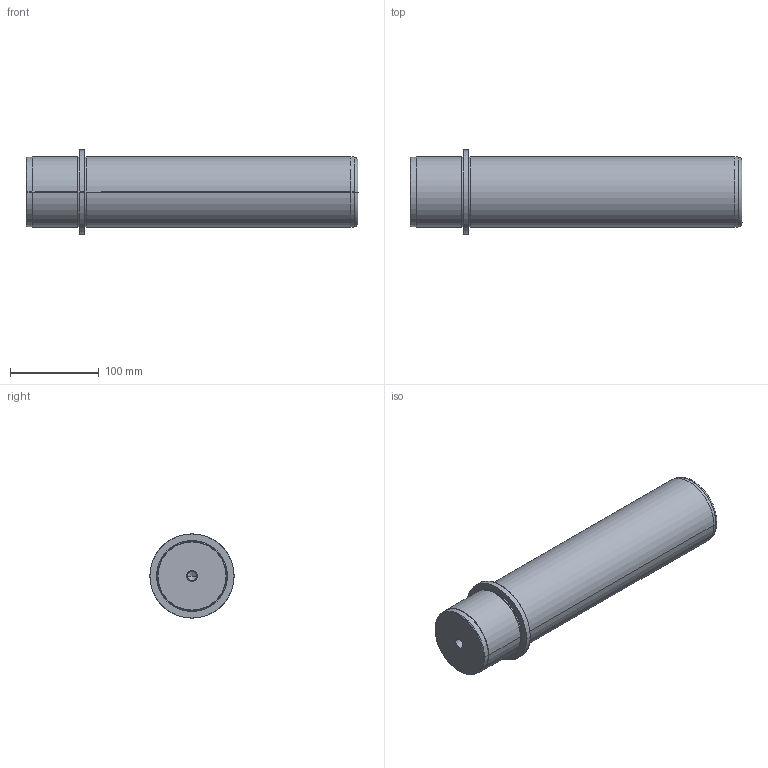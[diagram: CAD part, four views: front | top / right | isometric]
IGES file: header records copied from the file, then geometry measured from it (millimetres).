
Start section: SolidWorks IGES FILE using analytic representation for surfaces
Global section: file name: D:\zzzzz\Delta\D06\80\D06 - 80x315x60.IGS; native system: SolidWorks 2004 by SolidWorks Corporation; preprocessor: Version 5.3; author: Hkn; date: 080327.151901; units: millimetre
Bounding box: 375 x 95 x 95 mm (x, y, z)
Surface area: 110925.7 mm2 (no closed solid volume)
Topology: 0 solids, 0 shells, 39 faces, 1080 edges, 1076 vertices
Faces by surface type: revolution 28, bspline 11
